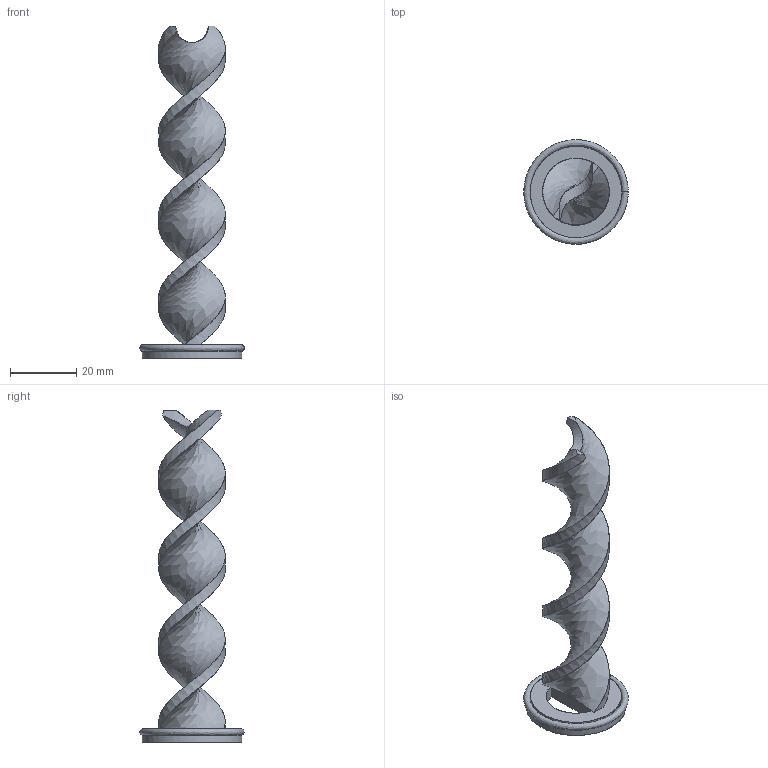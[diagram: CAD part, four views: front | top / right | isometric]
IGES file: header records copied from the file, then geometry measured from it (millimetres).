
Global section: file name: E:\UnigraphicsGraphicData\MISUMI_MOLD-PARTS\NX\3d_wrcan20-100_00629_r00.igs; native system: NX V5.0; preprocessor: UGS NX IGES V5.0; author: MISUMI; date: 20101115.183634; units: millimetre
Bounding box: 31.5 x 31.5 x 100 mm (x, y, z)
Surface area: 7719.7 mm2 (no closed solid volume)
Topology: 0 solids, 0 shells, 21 faces, 186 edges, 179 vertices
Faces by surface type: bspline 21
